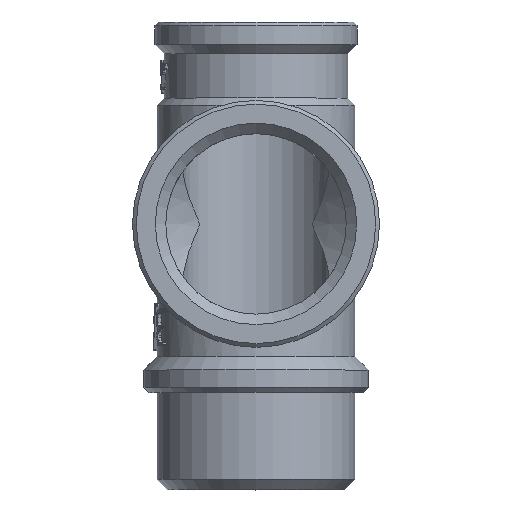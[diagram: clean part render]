
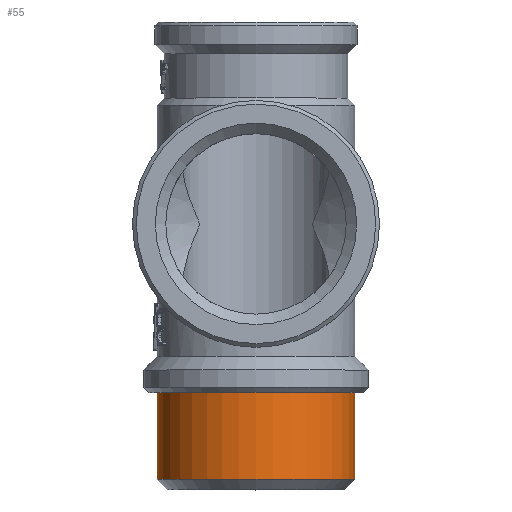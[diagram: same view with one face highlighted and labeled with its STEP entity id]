
A CAD part, top view. The second image highlights one B-rep face of the part: STEP entity #55.
In plain terms, the highlighted cylindrical face has radius 13.22 mm (diameter 26.441 mm), a full revolution.
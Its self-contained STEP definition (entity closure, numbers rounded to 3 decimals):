
#55=ADVANCED_FACE('',(#493,#495),#497,.T.);
#493=FACE_OUTER_BOUND('',#494,.T.);
#494=EDGE_LOOP('',(#2793));
#495=FACE_OUTER_BOUND('',#496,.T.);
#496=EDGE_LOOP('',(#2794));
#497=CYLINDRICAL_SURFACE('',#498,13.221);
#498=AXIS2_PLACEMENT_3D('',#499,#500,#501);
#499=CARTESIAN_POINT('',(0.,15.9,0.));
#500=DIRECTION('',(0.,-1.,0.));
#501=DIRECTION('',(1.,0.,0.));
#2793=ORIENTED_EDGE('',*,*,#5290,.F.);
#2794=ORIENTED_EDGE('',*,*,#5287,.F.);
#5287=EDGE_CURVE('',#6266,#6266,#6267,.T.);
#5290=EDGE_CURVE('',#6272,#6272,#6273,.F.);
#6266=VERTEX_POINT('',#8398);
#6267=CIRCLE('',#8399,13.221);
#6272=VERTEX_POINT('',#8413);
#6273=CIRCLE('',#8414,13.221);
#8398=CARTESIAN_POINT('',(13.221,-34.1,0.));
#8399=AXIS2_PLACEMENT_3D('',#8400,#8401,#8402);
#8400=CARTESIAN_POINT('',(0.,-34.1,0.));
#8401=DIRECTION('',(0.,-1.,0.));
#8402=DIRECTION('',(1.,0.,0.));
#8413=CARTESIAN_POINT('',(13.221,-22.5,0.));
#8414=AXIS2_PLACEMENT_3D('',#8415,#8416,#8417);
#8415=CARTESIAN_POINT('',(0.,-22.5,0.));
#8416=DIRECTION('',(0.,-1.,0.));
#8417=DIRECTION('',(1.,0.,0.));
